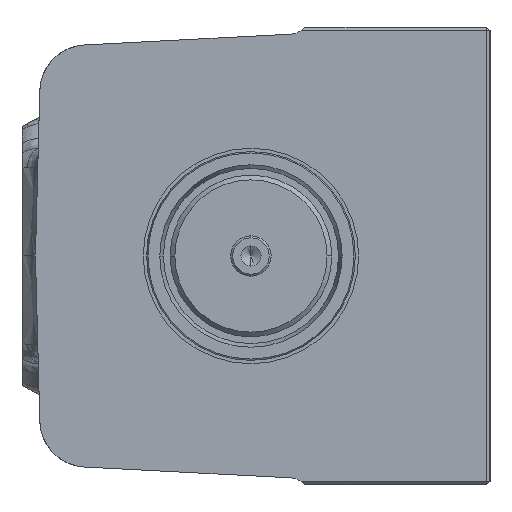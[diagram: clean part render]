
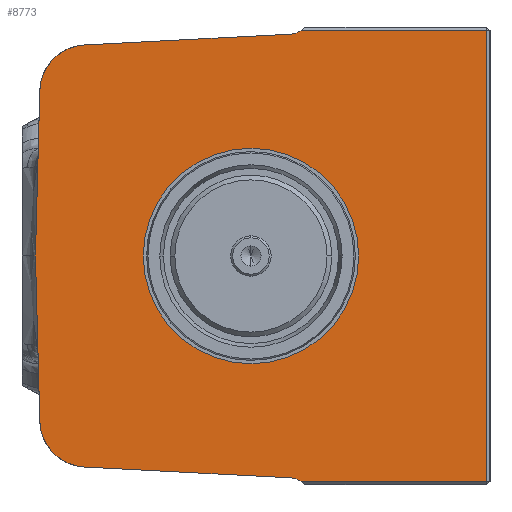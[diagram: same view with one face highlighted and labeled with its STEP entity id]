
A CAD part, left-side view. The second image highlights one B-rep face of the part: STEP entity #8773.
In plain terms, the highlighted planar face has unit normal (-1, 0, 0).
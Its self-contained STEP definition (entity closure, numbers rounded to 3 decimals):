
#155 = ORIENTED_EDGE ( 'NONE', *, *, #29369, .T. ) ;
#167 = DIRECTION ( 'NONE',  ( 1., 0., 0. ) ) ;
#804 = AXIS2_PLACEMENT_3D ( 'NONE', #19992, #819, #23185 ) ;
#819 = DIRECTION ( 'NONE',  ( -1., 0., 0. ) ) ;
#1197 = FACE_OUTER_BOUND ( 'NONE', #32668, .T. ) ;
#1686 = ORIENTED_EDGE ( 'NONE', *, *, #35393, .F. ) ;
#2094 = CARTESIAN_POINT ( 'NONE',  ( -46.6, 1.706, -32.544 ) ) ;
#2640 = VECTOR ( 'NONE', #15606, 1000. ) ;
#3278 = DIRECTION ( 'NONE',  ( 0., 1., 0. ) ) ;
#3280 = VECTOR ( 'NONE', #3278, 1000. ) ;
#3650 = LINE ( 'NONE', #31542, #2640 ) ;
#4103 = CARTESIAN_POINT ( 'NONE',  ( -46.6, -35.5, -34. ) ) ;
#4139 = CARTESIAN_POINT ( 'NONE',  ( -46.6, 31.358, -24.53 ) ) ;
#4962 = CARTESIAN_POINT ( 'NONE',  ( -46.6, 1.706, 32.544 ) ) ;
#5375 = ORIENTED_EDGE ( 'NONE', *, *, #33345, .T. ) ;
#5788 = ORIENTED_EDGE ( 'NONE', *, *, #6908, .T. ) ;
#6128 = ORIENTED_EDGE ( 'NONE', *, *, #31818, .T. ) ;
#6301 = CARTESIAN_POINT ( 'NONE',  ( -46.6, 31.358, 24.53 ) ) ;
#6908 = EDGE_CURVE ( 'NONE', #25393, #7913, #11772, .T. ) ;
#7320 = DIRECTION ( 'NONE',  ( 0., 0., 1. ) ) ;
#7464 = VECTOR ( 'NONE', #8179, 1000. ) ;
#7569 = CIRCLE ( 'NONE', #19770, 3. ) ;
#7612 = VERTEX_POINT ( 'NONE', #20397 ) ;
#7913 = VERTEX_POINT ( 'NONE', #12673 ) ;
#8179 = DIRECTION ( 'NONE',  ( 0., -0.999, 0.052 ) ) ;
#8297 = VERTEX_POINT ( 'NONE', #29781 ) ;
#8536 = DIRECTION ( 'NONE',  ( 0., 0., 1. ) ) ;
#8773 = ADVANCED_FACE ( 'NONE', ( #1197, #18179 ), #20030, .T. ) ;
#9598 = VERTEX_POINT ( 'NONE', #39108 ) ;
#9601 = DIRECTION ( 'NONE',  ( 0., -0.026, -1. ) ) ;
#10002 = VECTOR ( 'NONE', #37700, 1000. ) ;
#10053 = EDGE_CURVE ( 'NONE', #8297, #24080, #27073, .T. ) ;
#10216 = CIRCLE ( 'NONE', #804, 16. ) ;
#10618 = CARTESIAN_POINT ( 'NONE',  ( -46.6, 24.36, -24.347 ) ) ;
#10910 = CARTESIAN_POINT ( 'NONE',  ( -46.6, 24.36, 24.347 ) ) ;
#11243 = AXIS2_PLACEMENT_3D ( 'NONE', #4103, #26428, #7320 ) ;
#11348 = ORIENTED_EDGE ( 'NONE', *, *, #40182, .F. ) ;
#11430 = CARTESIAN_POINT ( 'NONE',  ( -46.6, -5.693, -35.936 ) ) ;
#11772 = LINE ( 'NONE', #19191, #3280 ) ;
#11957 = ORIENTED_EDGE ( 'NONE', *, *, #10053, .T. ) ;
#12107 = VECTOR ( 'NONE', #9601, 1000. ) ;
#12327 = CARTESIAN_POINT ( 'NONE',  ( -46.6, 16., 0. ) ) ;
#12493 = EDGE_CURVE ( 'NONE', #7913, #16837, #7569, .T. ) ;
#12673 = CARTESIAN_POINT ( 'NONE',  ( -46.6, -7.444, 33.5 ) ) ;
#13778 = DIRECTION ( 'NONE',  ( 0., 0., 1. ) ) ;
#14091 = DIRECTION ( 'NONE',  ( 0., 0., 1. ) ) ;
#14474 = ORIENTED_EDGE ( 'NONE', *, *, #16364, .F. ) ;
#14610 = DIRECTION ( 'NONE',  ( 0., 0., 1. ) ) ;
#14749 = CARTESIAN_POINT ( 'NONE',  ( -46.6, -7.444, -33.5 ) ) ;
#15309 = CARTESIAN_POINT ( 'NONE',  ( -46.6, -35.5, -33.5 ) ) ;
#15326 = CIRCLE ( 'NONE', #39084, 7. ) ;
#15606 = DIRECTION ( 'NONE',  ( 0., -0.026, 1. ) ) ;
#15803 = VECTOR ( 'NONE', #8536, 1000. ) ;
#16205 = DIRECTION ( 'NONE',  ( -1., 0., 0. ) ) ;
#16364 = EDGE_CURVE ( 'NONE', #25342, #9598, #31809, .T. ) ;
#16477 = ORIENTED_EDGE ( 'NONE', *, *, #12493, .T. ) ;
#16837 = VERTEX_POINT ( 'NONE', #22452 ) ;
#17465 = LINE ( 'NONE', #15309, #10002 ) ;
#18179 = FACE_BOUND ( 'NONE', #35925, .T. ) ;
#18256 = EDGE_CURVE ( 'NONE', #32262, #20995, #17465, .T. ) ;
#18352 = VERTEX_POINT ( 'NONE', #35030 ) ;
#18497 = ORIENTED_EDGE ( 'NONE', *, *, #20786, .F. ) ;
#18608 = EDGE_CURVE ( 'NONE', #7612, #16837, #32946, .T. ) ;
#18999 = VERTEX_POINT ( 'NONE', #20979 ) ;
#19106 = CIRCLE ( 'NONE', #30886, 3. ) ;
#19191 = CARTESIAN_POINT ( 'NONE',  ( -46.6, -35.5, 33.5 ) ) ;
#19309 = CARTESIAN_POINT ( 'NONE',  ( -46.6, -5.693, 35.936 ) ) ;
#19770 = AXIS2_PLACEMENT_3D ( 'NONE', #19309, #167, #22517 ) ;
#19992 = CARTESIAN_POINT ( 'NONE',  ( -46.6, 0., 0. ) ) ;
#20030 = PLANE ( 'NONE',  #11243 ) ;
#20397 = CARTESIAN_POINT ( 'NONE',  ( -46.6, 24.726, 31.337 ) ) ;
#20786 = EDGE_CURVE ( 'NONE', #18352, #24080, #15326, .T. ) ;
#20979 = CARTESIAN_POINT ( 'NONE',  ( -46.6, -5.85, -32.94 ) ) ;
#20995 = VERTEX_POINT ( 'NONE', #21415 ) ;
#21208 = DIRECTION ( 'NONE',  ( 0., -0.999, -0.052 ) ) ;
#21415 = CARTESIAN_POINT ( 'NONE',  ( -46.6, -35., -33.5 ) ) ;
#22452 = CARTESIAN_POINT ( 'NONE',  ( -46.6, -5.85, 32.94 ) ) ;
#22517 = DIRECTION ( 'NONE',  ( 0., 0., 1. ) ) ;
#22700 = ORIENTED_EDGE ( 'NONE', *, *, #18256, .T. ) ;
#23185 = DIRECTION ( 'NONE',  ( 0., -1., 0. ) ) ;
#24080 = VERTEX_POINT ( 'NONE', #4139 ) ;
#24306 = LINE ( 'NONE', #40374, #15803 ) ;
#25342 = VERTEX_POINT ( 'NONE', #12327 ) ;
#25393 = VERTEX_POINT ( 'NONE', #41118 ) ;
#25647 = ORIENTED_EDGE ( 'NONE', *, *, #18608, .F. ) ;
#26428 = DIRECTION ( 'NONE',  ( -1., 0., 0. ) ) ;
#27073 = LINE ( 'NONE', #31921, #12107 ) ;
#28493 = ORIENTED_EDGE ( 'NONE', *, *, #40429, .T. ) ;
#28815 = LINE ( 'NONE', #2094, #37338 ) ;
#29369 = EDGE_CURVE ( 'NONE', #7612, #35206, #37459, .T. ) ;
#29781 = CARTESIAN_POINT ( 'NONE',  ( -46.6, 32., 0. ) ) ;
#30886 = AXIS2_PLACEMENT_3D ( 'NONE', #11430, #33779, #14610 ) ;
#31542 = CARTESIAN_POINT ( 'NONE',  ( -46.6, 31.978, 0.837 ) ) ;
#31809 = CIRCLE ( 'NONE', #31971, 16. ) ;
#31818 = EDGE_CURVE ( 'NONE', #18352, #18999, #28815, .T. ) ;
#31921 = CARTESIAN_POINT ( 'NONE',  ( -46.6, 31.978, -0.837 ) ) ;
#31971 = AXIS2_PLACEMENT_3D ( 'NONE', #35381, #16205, #38601 ) ;
#32262 = VERTEX_POINT ( 'NONE', #14749 ) ;
#32668 = EDGE_LOOP ( 'NONE', ( #28493, #22700, #5375, #5788, #16477, #25647, #155, #11348, #11957, #18497, #6128 ) ) ;
#32935 = DIRECTION ( 'NONE',  ( 1., 0., 0. ) ) ;
#32946 = LINE ( 'NONE', #4962, #7464 ) ;
#33251 = DIRECTION ( 'NONE',  ( -1., 0., 0. ) ) ;
#33345 = EDGE_CURVE ( 'NONE', #20995, #25393, #24306, .T. ) ;
#33779 = DIRECTION ( 'NONE',  ( 1., 0., 0. ) ) ;
#33809 = AXIS2_PLACEMENT_3D ( 'NONE', #10910, #33251, #14091 ) ;
#35030 = CARTESIAN_POINT ( 'NONE',  ( -46.6, 24.726, -31.337 ) ) ;
#35206 = VERTEX_POINT ( 'NONE', #6301 ) ;
#35381 = CARTESIAN_POINT ( 'NONE',  ( -46.6, 0., 0. ) ) ;
#35393 = EDGE_CURVE ( 'NONE', #9598, #25342, #10216, .T. ) ;
#35925 = EDGE_LOOP ( 'NONE', ( #1686, #14474 ) ) ;
#37338 = VECTOR ( 'NONE', #21208, 1000. ) ;
#37459 = CIRCLE ( 'NONE', #33809, 7. ) ;
#37700 = DIRECTION ( 'NONE',  ( 0., -1., 0. ) ) ;
#38601 = DIRECTION ( 'NONE',  ( 0., -1., 0. ) ) ;
#39084 = AXIS2_PLACEMENT_3D ( 'NONE', #10618, #32935, #13778 ) ;
#39108 = CARTESIAN_POINT ( 'NONE',  ( -46.6, -16., 0. ) ) ;
#40182 = EDGE_CURVE ( 'NONE', #8297, #35206, #3650, .T. ) ;
#40374 = CARTESIAN_POINT ( 'NONE',  ( -46.6, -35., -34. ) ) ;
#40429 = EDGE_CURVE ( 'NONE', #18999, #32262, #19106, .T. ) ;
#41118 = CARTESIAN_POINT ( 'NONE',  ( -46.6, -35., 33.5 ) ) ;
